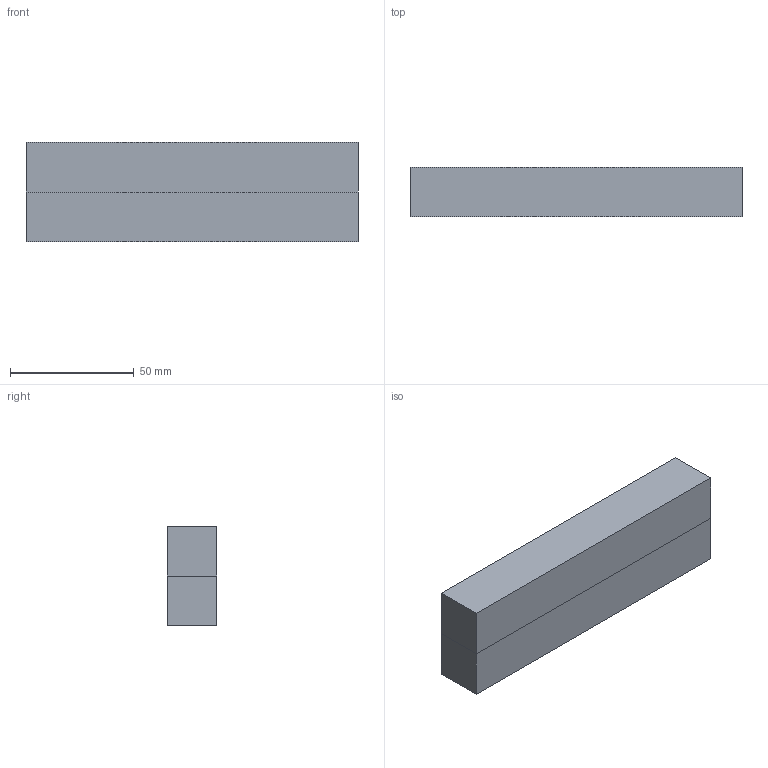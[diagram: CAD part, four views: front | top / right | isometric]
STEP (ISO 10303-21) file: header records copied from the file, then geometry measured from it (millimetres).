
FILE_DESCRIPTION(('Open CASCADE Model'),'2;1');
FILE_NAME('Open CASCADE Shape Model','2025-02-21T15:43:40',('Author'),( 'Open CASCADE'),'Open CASCADE STEP processor 7.8','Open CASCADE 7.8' ,'Unknown');
FILE_SCHEMA(('AUTOMOTIVE_DESIGN { 1 0 10303 214 1 1 1 1 }'));
Length unit declared in the file: millimetre
Products named in the file (2): Compound1; Solid1
Assembly tree (2 placements, depth 2):
  Compound1
    Solid1  x2
Bounding box: 134 x 20 x 40 mm (x, y, z)
Volume: 107200 mm3; surface area: 23040 mm2
Topology: 2 solids, 2 shells, 12 faces, 24 edges, 16 vertices
Faces by surface type: plane 12
Entity records: 192 total; most frequent: DIRECTION 30, CARTESIAN_POINT 29, ORIENTED_EDGE 24, EDGE_CURVE 12, LINE 12, VECTOR 12, AXIS2_PLACEMENT_3D 9, VERTEX_POINT 8
